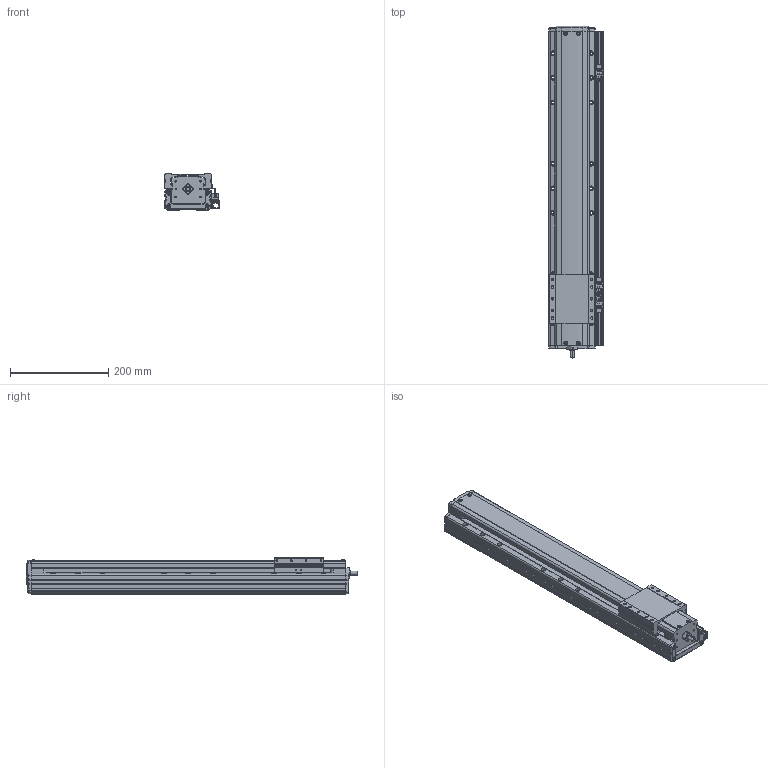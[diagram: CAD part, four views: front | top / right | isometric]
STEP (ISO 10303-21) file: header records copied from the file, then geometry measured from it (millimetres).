
FILE_DESCRIPTION(('STEP AP214'),'1');
FILE_NAME('Z:/Web/3D/PSA95/STP/PSA95-450 (3D)/PSA95ㅁㅁ-450+3SR.stp','2014-07-03T00:23:24',(' '),(' '),'Spatial InterOp 3D',' ',' ');
FILE_SCHEMA(('automotive_design'));
Length unit declared in the file: millimetre
Products named in the file (36): BASE; RRCV; 스크루 : Round - M4.0 x 10.0; 너트 : Square - M10.0 x 220.7419; RR1500; FRCV-090; 스크루 : Round - M4.0 x 6.0; SLBL-PA90; EE-SX674; SBK-SX674-352; 스크루 : Round - M3.0 x 6.0; M3.0 x 6.0; SRL-16x17-380L; SGD-PA95; 스크루 : Round - M3.0 x 8.0
Bounding box: 111 x 676 x 74 mm (x, y, z)
Volume: 3609309.1 mm3; surface area: 449003.6 mm2
Topology: 36 solids, 36 shells, 2284 faces, 6118 edges, 3938 vertices
Faces by surface type: plane 1360, cylinder 639, cone 197, sphere 50, bspline 24, torus 14
Entity records: 91957 total; most frequent: CARTESIAN_POINT 15383, DIRECTION 12082, ORIENTED_EDGE 12004, EDGE_CURVE 6002, LINE 4180, VECTOR 4180, AXIS2_PLACEMENT_3D 3951, VERTEX_POINT 3938
